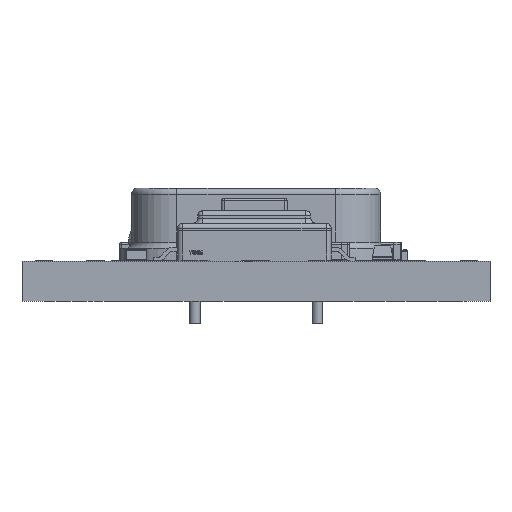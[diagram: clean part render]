
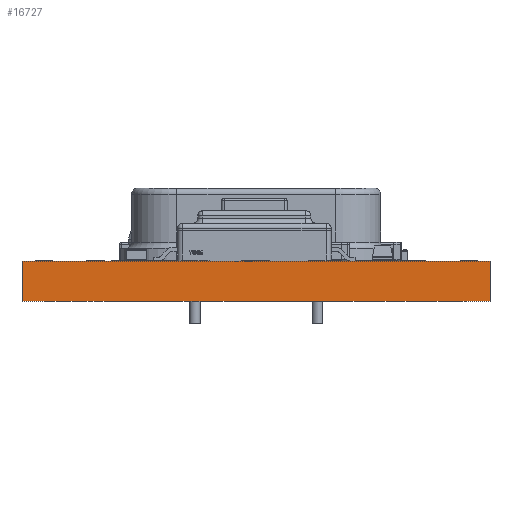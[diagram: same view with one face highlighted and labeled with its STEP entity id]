
A CAD part, front view. The second image highlights one B-rep face of the part: STEP entity #16727.
In plain terms, the highlighted planar face has unit normal (0, -1, 0).
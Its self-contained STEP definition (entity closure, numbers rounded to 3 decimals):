
#6465 = VERTEX_POINT('',#6466);
#6466 = CARTESIAN_POINT('',(16.92,-29.7,0.));
#6472 = EDGE_CURVE('',#6473,#6465,#6475,.T.);
#6473 = VERTEX_POINT('',#6474);
#6474 = CARTESIAN_POINT('',(-1.68,-29.7,0.));
#6475 = LINE('',#6476,#6477);
#6476 = CARTESIAN_POINT('',(-1.68,-29.7,0.));
#6477 = VECTOR('',#6478,1.);
#6478 = DIRECTION('',(1.,0.,0.));
#12615 = VERTEX_POINT('',#12616);
#12616 = CARTESIAN_POINT('',(-1.68,-29.7,1.6));
#12622 = EDGE_CURVE('',#12615,#12623,#12625,.T.);
#12623 = VERTEX_POINT('',#12624);
#12624 = CARTESIAN_POINT('',(16.92,-29.7,1.6));
#12625 = LINE('',#12626,#12627);
#12626 = CARTESIAN_POINT('',(-1.68,-29.7,1.6));
#12627 = VECTOR('',#12628,1.);
#12628 = DIRECTION('',(1.,0.,0.));
#16715 = EDGE_CURVE('',#12615,#6473,#16716,.T.);
#16716 = LINE('',#16717,#16718);
#16717 = CARTESIAN_POINT('',(-1.68,-29.7,1.6));
#16718 = VECTOR('',#16719,1.);
#16719 = DIRECTION('',(-0.,-0.,-1.));
#16727 = ADVANCED_FACE('',(#16728),#16739,.F.);
#16728 = FACE_BOUND('',#16729,.T.);
#16729 = EDGE_LOOP('',(#16730,#16731,#16737,#16738));
#16730 = ORIENTED_EDGE('',*,*,#6472,.T.);
#16731 = ORIENTED_EDGE('',*,*,#16732,.F.);
#16732 = EDGE_CURVE('',#12623,#6465,#16733,.T.);
#16733 = LINE('',#16734,#16735);
#16734 = CARTESIAN_POINT('',(16.92,-29.7,1.6));
#16735 = VECTOR('',#16736,1.);
#16736 = DIRECTION('',(-0.,-0.,-1.));
#16737 = ORIENTED_EDGE('',*,*,#12622,.F.);
#16738 = ORIENTED_EDGE('',*,*,#16715,.T.);
#16739 = PLANE('',#16740);
#16740 = AXIS2_PLACEMENT_3D('',#16741,#16742,#16743);
#16741 = CARTESIAN_POINT('',(-1.68,-29.7,1.6));
#16742 = DIRECTION('',(0.,1.,0.));
#16743 = DIRECTION('',(-1.,0.,0.));
